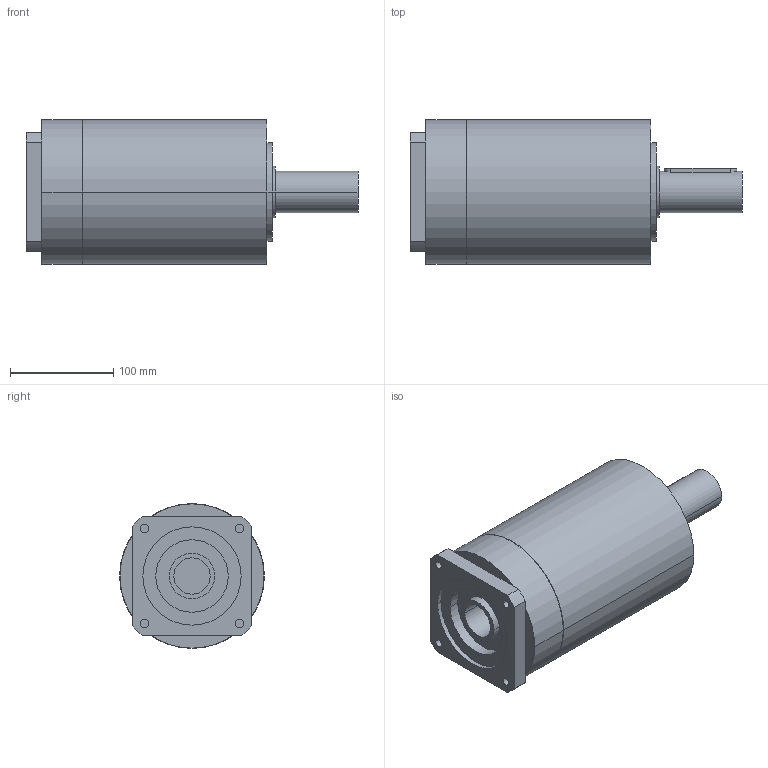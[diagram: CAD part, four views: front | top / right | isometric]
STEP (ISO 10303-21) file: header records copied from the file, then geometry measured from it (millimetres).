
FILE_DESCRIPTION(('CoCreate Modeling STEP Export'),'2;1');
FILE_NAME('GPR150_ig-9-12-16-20-28-35_40_B14_35_P10.stp','2014-08-19T17:04:19',(''),(''),'CoCreate Modeling STEP processor for AP214 (Solid Model)','CoCreate Modeling 16.00C 25-Feb-2009 (C) Parametric Technology GmbH','');
FILE_SCHEMA(('AUTOMOTIVE_DESIGN { 1 0 10303 214 1 1 1 1 }'));
Length unit declared in the file: millimetre
Products named in the file (2): GPR150_ig-9-12-16-20-28-35_40_B14_35_P10
Assembly tree (1 placements, depth 2):
  GPR150_ig-9-12-16-20-28-35_40_B14_35_P10
    GPR150_ig-9-12-16-20-28-35_40_B14_35_P10
Bounding box: 321 x 140 x 140 mm (x, y, z)
Volume: 3544953.9 mm3; surface area: 166487 mm2
Topology: 1 solids, 1 shells, 81 faces, 200 edges, 136 vertices
Faces by surface type: cylinder 42, plane 33, cone 6
Entity records: 2051 total; most frequent: ORIENTED_EDGE 396, CARTESIAN_POINT 393, DIRECTION 268, EDGE_CURVE 198, VERTEX_POINT 136, AXIS2_PLACEMENT_3D 99, EDGE_LOOP 98, FACE_OUTER_BOUND 81
